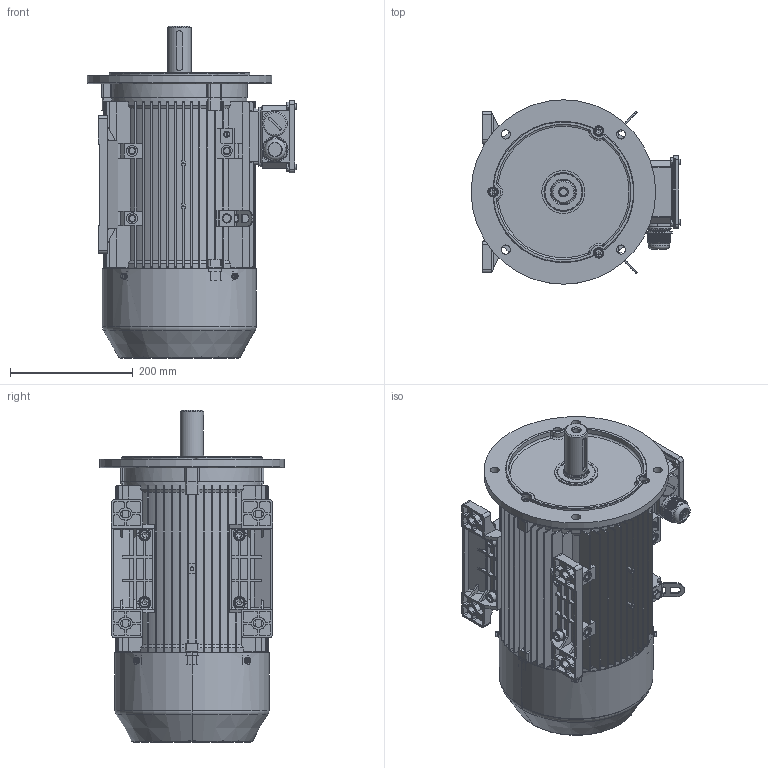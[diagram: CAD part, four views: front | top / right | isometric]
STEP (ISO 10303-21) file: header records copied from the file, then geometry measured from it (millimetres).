
FILE_DESCRIPTION(/* description */ (''),/* implementation_level */ '2;1');
FILE_NAME(/* name */ 'FCPA-132M2-4-11kW-B35-IE2.stp',/* time_stamp */ '2017-06-29T14:11:21+08:00',/* author */ (''),/* organization */ (''),/* preprocessor_version */ 'ST-DEVELOPER v16',/* originating_system */ 'SIEMENS PLM Software NX 10.0',/* authorisation */ '');
FILE_SCHEMA (('CONFIG_CONTROL_DESIGN'));
Products named in the file (1): JL3-132M-B3_加深后端盖
Bounding box: 341 x 300 x 539.99 mm (x, y, z)
Volume: 4182343.4 mm3; surface area: 2016410.1 mm2
Topology: 59 solids, 59 shells, 4194 faces, 11606 edges, 7680 vertices
Faces by surface type: plane 2759, cylinder 952, torus 251, cone 206, bspline 24, sphere 2
Full cylindrical faces by diameter (mm): 2 x4, 4.48 x9, 4.8 x10, 5 x37, 5.3 x5, 5.8 x14, 6 x1, 7.188 x3, 8 x14, 8.58 x2, 9.1 x3, 10 x24, 10.715 x4, 11 x6, 12 x13, 13 x7, 14.785 x2, 15 x4, 16 x11, 17 x4, 17.785 x4, 18 x12, 22 x1, 26 x4, 27.2 x1, 28.2 x3, 30 x8, 31 x6, 32 x16, 33 x6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
Entity records: 140840 total; most frequent: CARTESIAN_POINT 36607, ORIENTED_EDGE 21790, DIRECTION 20438, EDGE_CURVE 10895, VERTEX_POINT 7390, LINE 7088, VECTOR 7088, AXIS2_PLACEMENT_3D 6675
